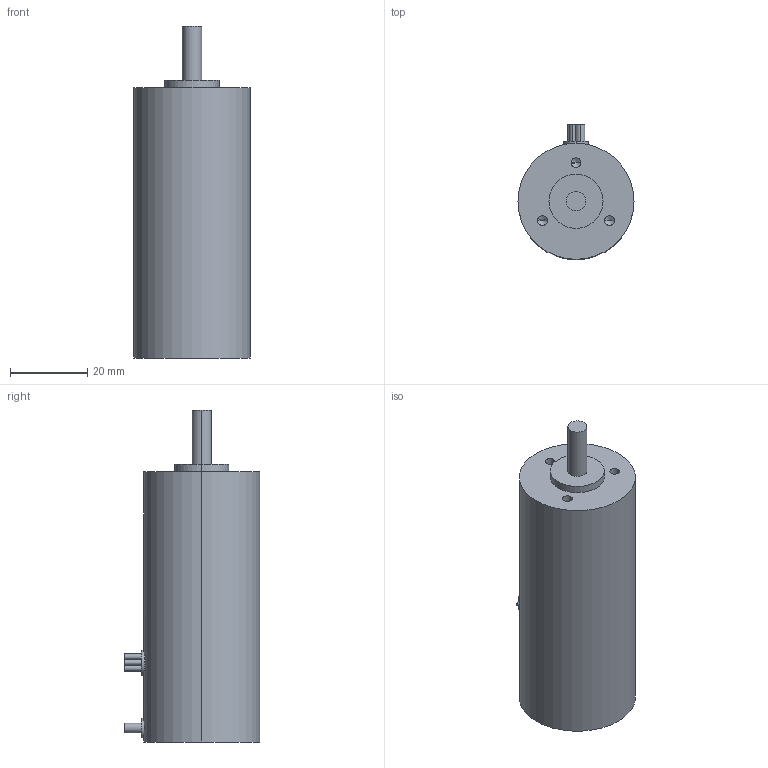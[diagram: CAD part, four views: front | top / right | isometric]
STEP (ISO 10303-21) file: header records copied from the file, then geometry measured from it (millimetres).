
FILE_DESCRIPTION (( 'STEP AP214' ), '1' );
FILE_NAME ('EA-3070.STEP', '2024-11-01T10:56:30', ( '' ), ( '' ), 'SwSTEP 2.0', 'SolidWorks 2024', '' );
FILE_SCHEMA (( 'AUTOMOTIVE_DESIGN' ));
Length unit declared in the file: millimetre
Products named in the file (1): EA-3070
Bounding box: 30 x 35 x 85.8 mm (x, y, z)
Volume: 49956.7 mm3; surface area: 8549.5 mm2
Topology: 1 solids, 1 shells, 43 faces, 90 edges, 55 vertices
Faces by surface type: cylinder 26, plane 11, cone 6
Entity records: 1261 total; most frequent: CARTESIAN_POINT 307, DIRECTION 216, ORIENTED_EDGE 168, AXIS2_PLACEMENT_3D 92, EDGE_CURVE 84, EDGE_LOOP 55, VERTEX_POINT 55, CIRCLE 48
